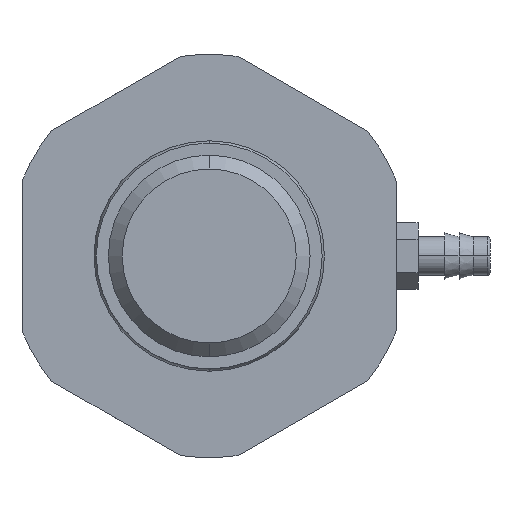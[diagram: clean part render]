
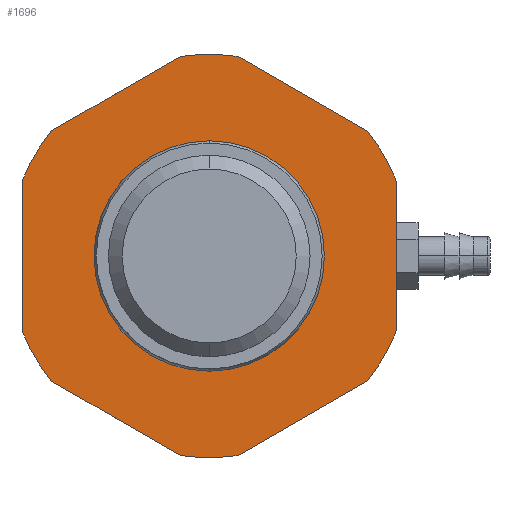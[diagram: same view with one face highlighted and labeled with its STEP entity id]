
A CAD part, left-side view. The second image highlights one B-rep face of the part: STEP entity #1696.
In plain terms, the highlighted planar face has unit normal (-1, 0, 0).
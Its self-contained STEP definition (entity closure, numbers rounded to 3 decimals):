
#1384=CARTESIAN_POINT('',(-3.375,0.,0.413));
#1385=VERTEX_POINT('',#1384);
#1401=CARTESIAN_POINT('',(-3.375,0.,-0.413));
#1402=VERTEX_POINT('',#1401);
#1409=CARTESIAN_POINT('',(-3.375,0.,0.0));
#1410=DIRECTION('',(1.0,0.0,0.0));
#1411=DIRECTION('',(0.0,0.0,1.0));
#1412=AXIS2_PLACEMENT_3D('',#1409,#1410,#1411);
#1413=CIRCLE('',#1412,0.413);
#1414=EDGE_CURVE('',#1402,#1385,#1413,.F.);
#1577=CARTESIAN_POINT('',(-3.375,0.,0.0));
#1578=DIRECTION('',(-1.0,0.0,0.0));
#1579=DIRECTION('',(0.0,0.0,1.0));
#1580=AXIS2_PLACEMENT_3D('',#1577,#1578,#1579);
#1581=PLANE('',#1580);
#1582=CARTESIAN_POINT('',(-3.375,-0.125,-0.866));
#1583=VERTEX_POINT('',#1582);
#1584=CARTESIAN_POINT('',(-3.375,0.125,-0.866));
#1585=VERTEX_POINT('',#1584);
#1586=CARTESIAN_POINT('',(-3.375,0.,0.0));
#1587=DIRECTION('',(1.0,0.0,0.0));
#1588=DIRECTION('',(0.0,0.0,-1.0));
#1589=AXIS2_PLACEMENT_3D('',#1586,#1587,#1588);
#1590=CIRCLE('',#1589,0.875);
#1591=EDGE_CURVE('',#1583,#1585,#1590,.T.);
#1592=ORIENTED_EDGE('',*,*,#1591,.F.);
#1593=CARTESIAN_POINT('',(-3.375,-0.687,-0.541));
#1594=VERTEX_POINT('',#1593);
#1595=CARTESIAN_POINT('',(-3.375,-0.687,-0.541));
#1596=DIRECTION('',(0.0,0.866,-0.5));
#1597=VECTOR('',#1596,0.65);
#1598=LINE('',#1595,#1597);
#1599=EDGE_CURVE('',#1594,#1583,#1598,.T.);
#1600=ORIENTED_EDGE('',*,*,#1599,.F.);
#1601=CARTESIAN_POINT('',(-3.375,-0.812,-0.325));
#1602=VERTEX_POINT('',#1601);
#1603=CARTESIAN_POINT('',(-3.375,0.,0.0));
#1604=DIRECTION('',(1.0,0.0,0.0));
#1605=DIRECTION('',(0.0,-0.866,-0.5));
#1606=AXIS2_PLACEMENT_3D('',#1603,#1604,#1605);
#1607=CIRCLE('',#1606,0.875);
#1608=EDGE_CURVE('',#1602,#1594,#1607,.T.);
#1609=ORIENTED_EDGE('',*,*,#1608,.F.);
#1610=CARTESIAN_POINT('',(-3.375,-0.812,0.325));
#1611=VERTEX_POINT('',#1610);
#1612=CARTESIAN_POINT('',(-3.375,-0.812,0.325));
#1613=DIRECTION('',(0.0,0.0,-1.0));
#1614=VECTOR('',#1613,0.65);
#1615=LINE('',#1612,#1614);
#1616=EDGE_CURVE('',#1611,#1602,#1615,.T.);
#1617=ORIENTED_EDGE('',*,*,#1616,.F.);
#1618=CARTESIAN_POINT('',(-3.375,-0.687,0.541));
#1619=VERTEX_POINT('',#1618);
#1620=CARTESIAN_POINT('',(-3.375,0.,0.0));
#1621=DIRECTION('',(1.0,0.0,0.0));
#1622=DIRECTION('',(0.0,-0.866,0.5));
#1623=AXIS2_PLACEMENT_3D('',#1620,#1621,#1622);
#1624=CIRCLE('',#1623,0.875);
#1625=EDGE_CURVE('',#1619,#1611,#1624,.T.);
#1626=ORIENTED_EDGE('',*,*,#1625,.F.);
#1627=CARTESIAN_POINT('',(-3.375,-0.125,0.866));
#1628=VERTEX_POINT('',#1627);
#1629=CARTESIAN_POINT('',(-3.375,-0.125,0.866));
#1630=DIRECTION('',(0.0,-0.866,-0.5));
#1631=VECTOR('',#1630,0.65);
#1632=LINE('',#1629,#1631);
#1633=EDGE_CURVE('',#1628,#1619,#1632,.T.);
#1634=ORIENTED_EDGE('',*,*,#1633,.F.);
#1635=CARTESIAN_POINT('',(-3.375,0.125,0.866));
#1636=VERTEX_POINT('',#1635);
#1637=CARTESIAN_POINT('',(-3.375,0.,0.0));
#1638=DIRECTION('',(1.0,0.0,0.0));
#1639=DIRECTION('',(0.0,0.0,1.0));
#1640=AXIS2_PLACEMENT_3D('',#1637,#1638,#1639);
#1641=CIRCLE('',#1640,0.875);
#1642=EDGE_CURVE('',#1636,#1628,#1641,.T.);
#1643=ORIENTED_EDGE('',*,*,#1642,.F.);
#1644=CARTESIAN_POINT('',(-3.375,0.688,0.541));
#1645=VERTEX_POINT('',#1644);
#1646=CARTESIAN_POINT('',(-3.375,0.688,0.541));
#1647=DIRECTION('',(0.0,-0.866,0.5));
#1648=VECTOR('',#1647,0.65);
#1649=LINE('',#1646,#1648);
#1650=EDGE_CURVE('',#1645,#1636,#1649,.T.);
#1651=ORIENTED_EDGE('',*,*,#1650,.F.);
#1652=CARTESIAN_POINT('',(-3.375,0.813,0.325));
#1653=VERTEX_POINT('',#1652);
#1654=CARTESIAN_POINT('',(-3.375,0.,0.0));
#1655=DIRECTION('',(1.0,0.0,0.0));
#1656=DIRECTION('',(0.0,0.866,0.5));
#1657=AXIS2_PLACEMENT_3D('',#1654,#1655,#1656);
#1658=CIRCLE('',#1657,0.875);
#1659=EDGE_CURVE('',#1653,#1645,#1658,.T.);
#1660=ORIENTED_EDGE('',*,*,#1659,.F.);
#1661=CARTESIAN_POINT('',(-3.375,0.813,-0.325));
#1662=VERTEX_POINT('',#1661);
#1663=CARTESIAN_POINT('',(-3.375,0.813,-0.325));
#1664=DIRECTION('',(0.0,0.0,1.0));
#1665=VECTOR('',#1664,0.65);
#1666=LINE('',#1663,#1665);
#1667=EDGE_CURVE('',#1662,#1653,#1666,.T.);
#1668=ORIENTED_EDGE('',*,*,#1667,.F.);
#1669=CARTESIAN_POINT('',(-3.375,0.688,-0.541));
#1670=VERTEX_POINT('',#1669);
#1671=CARTESIAN_POINT('',(-3.375,0.0,0.0));
#1672=DIRECTION('',(1.0,0.0,0.0));
#1673=DIRECTION('',(0.0,0.866,-0.5));
#1674=AXIS2_PLACEMENT_3D('',#1671,#1672,#1673);
#1675=CIRCLE('',#1674,0.875);
#1676=EDGE_CURVE('',#1670,#1662,#1675,.T.);
#1677=ORIENTED_EDGE('',*,*,#1676,.F.);
#1678=CARTESIAN_POINT('',(-3.375,0.125,-0.866));
#1679=DIRECTION('',(0.0,0.866,0.5));
#1680=VECTOR('',#1679,0.65);
#1681=LINE('',#1678,#1680);
#1682=EDGE_CURVE('',#1585,#1670,#1681,.T.);
#1683=ORIENTED_EDGE('',*,*,#1682,.F.);
#1684=EDGE_LOOP('',(#1592,#1600,#1609,#1617,#1626,#1634,#1643,#1651,#1660,#1668,#1677,#1683));
#1685=FACE_OUTER_BOUND('',#1684,.T.);
#1686=CARTESIAN_POINT('',(-3.375,0.,0.0));
#1687=DIRECTION('',(1.0,0.0,0.0));
#1688=DIRECTION('',(0.0,0.0,1.0));
#1689=AXIS2_PLACEMENT_3D('',#1686,#1687,#1688);
#1690=CIRCLE('',#1689,0.413);
#1691=EDGE_CURVE('',#1385,#1402,#1690,.F.);
#1692=ORIENTED_EDGE('',*,*,#1691,.F.);
#1693=ORIENTED_EDGE('',*,*,#1414,.F.);
#1694=EDGE_LOOP('',(#1692,#1693));
#1695=FACE_BOUND('',#1694,.T.);
#1696=ADVANCED_FACE('',(#1685,#1695),#1581,.T.);
